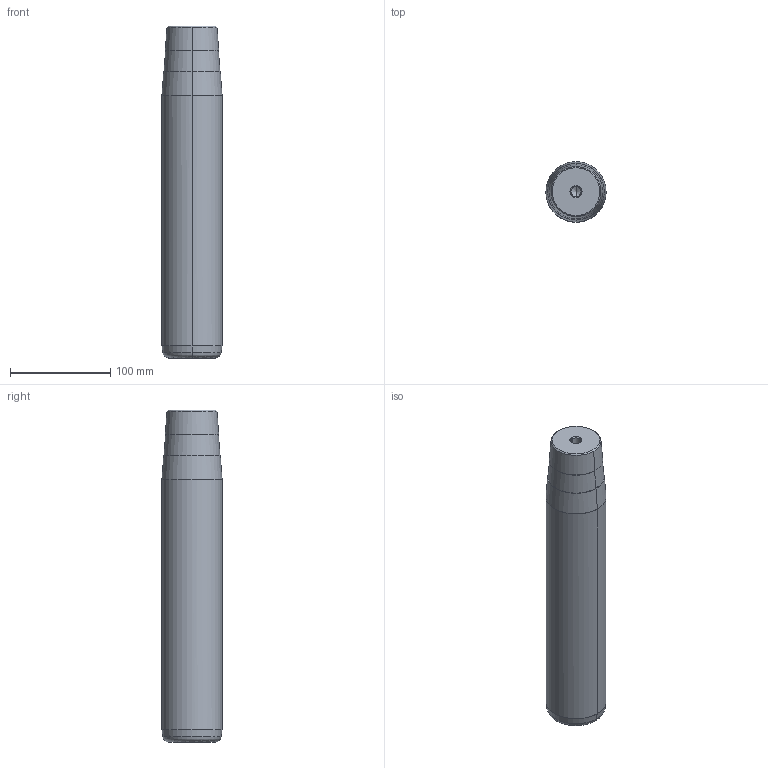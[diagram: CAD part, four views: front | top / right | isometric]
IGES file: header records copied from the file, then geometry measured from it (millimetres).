
Start section: START RECORD GO HERE.
Global section: file name: 722-60x280x331.igs; native system: DASSAULT SYSTEMES CATIA V5 R20 - www.3ds.com; preprocessor: CATIA Version 5 Release 20 ; author: Utente; organization: NB04-ASUS; date: 20210107.202927; units: millimetre
Bounding box: 60 x 60 x 331 mm (x, y, z)
Surface area: 67139.3 mm2 (no closed solid volume)
Topology: 0 solids, 0 shells, 32 faces, 192 edges, 188 vertices
Faces by surface type: revolution 30, plane 2
